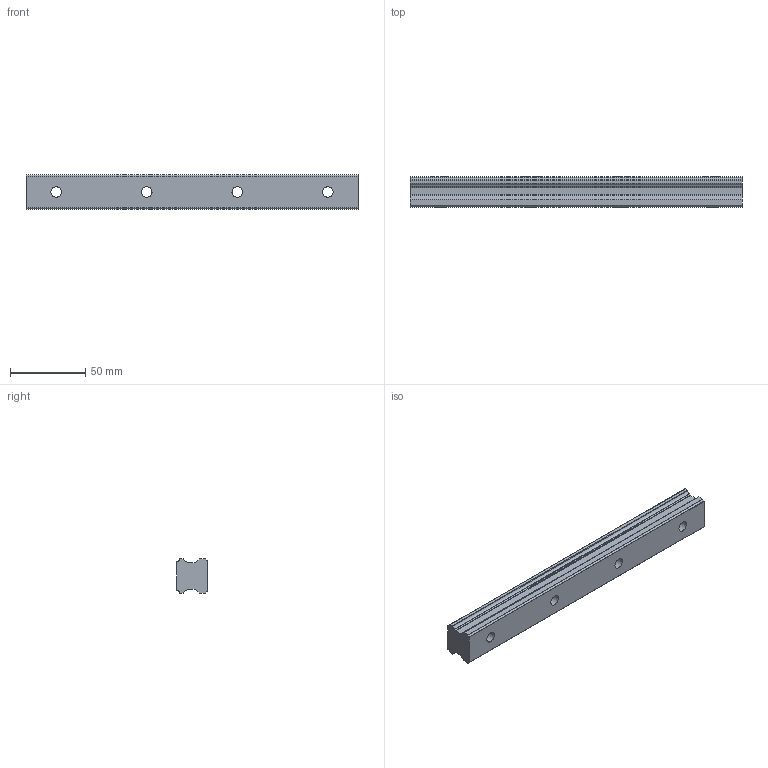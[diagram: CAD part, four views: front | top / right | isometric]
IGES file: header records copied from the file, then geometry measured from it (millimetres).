
Start section: Data from Parasolid IGES Translator 26.0.171, Copyright(c) 2006 Siemens PLM Software. All Rights Reserved.
Global section: file name: SHS25-220L(GK) RAIL(20).igs; native system: By Siemens PLM Incorporated; preprocessor: XPlus GENERIC/IGES 26.0.171; author: Noname; organization: Noname; date: 20240514.034158; units: millimetre
Bounding box: 220 x 20 x 23 mm (x, y, z)
Surface area: 21879.6 mm2 (no closed solid volume)
Topology: 0 solids, 0 shells, 54 faces, 288 edges, 272 vertices
Faces by surface type: revolution 34, extrusion 20
